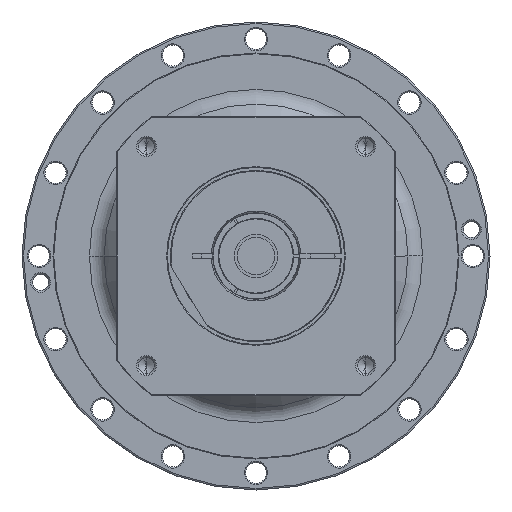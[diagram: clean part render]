
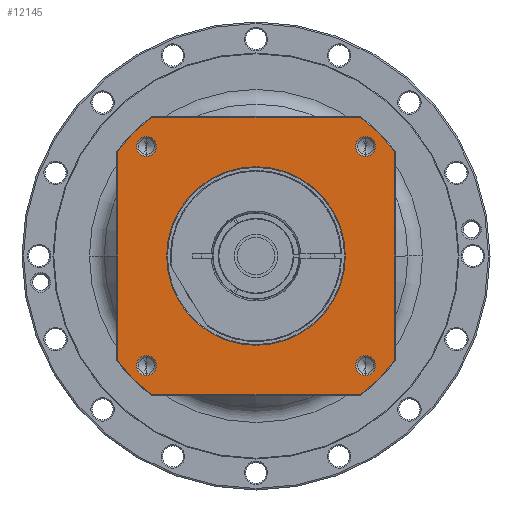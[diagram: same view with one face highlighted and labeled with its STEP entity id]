
A CAD part, left-side view. The second image highlights one B-rep face of the part: STEP entity #12145.
In plain terms, the highlighted planar face has unit normal (-1, 0, 0) as drawn and (0, 0, 1) by its records, which use the part's own axes.
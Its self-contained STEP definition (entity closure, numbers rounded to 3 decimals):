
#10873=DIRECTION('',(1.,0.,0.));
#10874=VECTOR('',#10873,134.666);
#10875=CARTESIAN_POINT('',(-67.333,-89.5,54.));
#10876=LINE('',#10875,#10874);
#10886=CARTESIAN_POINT('',(0.,0.,54.));
#10887=DIRECTION('',(0.,0.,-1.));
#10888=DIRECTION('',(0.,-1.,0.));
#10889=AXIS2_PLACEMENT_3D('',#10886,#10887,#10888);
#10891=CARTESIAN_POINT('',(0.,0.,
54.));
#10892=DIRECTION('',(0.,0.,-1.));
#10893=DIRECTION('',(0.,1.,0.));
#10894=AXIS2_PLACEMENT_3D('',#10891,#10892,#10893);
#10896=CARTESIAN_POINT('',(0.,0.,54.));
#10897=DIRECTION('',(0.,0.,1.));
#10898=DIRECTION('',(-0.799,-0.601,0.));
#10899=AXIS2_PLACEMENT_3D('',#10896,#10897,#10898);
#10911=DIRECTION('',(0.,-1.,0.));
#10912=VECTOR('',#10911,134.666);
#10913=CARTESIAN_POINT('',(-89.5,67.333,54.));
#10914=LINE('',#10913,#10912);
#10924=CARTESIAN_POINT('',(0.,0.,54.));
#10925=DIRECTION('',(0.,0.,1.));
#10926=DIRECTION('',(-0.601,0.799,0.));
#10927=AXIS2_PLACEMENT_3D('',#10924,#10925,#10926);
#10952=DIRECTION('',(-1.,0.,0.));
#10953=VECTOR('',#10952,134.666);
#10954=CARTESIAN_POINT('',(67.333,89.5,54.));
#10955=LINE('',#10954,#10953);
#10960=CARTESIAN_POINT('',(0.,0.,54.));
#10961=DIRECTION('',(0.,0.,1.));
#10962=DIRECTION('',(0.799,0.601,0.));
#10963=AXIS2_PLACEMENT_3D('',#10960,#10961,#10962);
#10975=DIRECTION('',(0.,1.,0.));
#10976=VECTOR('',#10975,134.666);
#10977=CARTESIAN_POINT('',(89.5,-67.333,54.));
#10978=LINE('',#10977,#10976);
#11080=CARTESIAN_POINT('',(0.,0.,54.));
#11081=DIRECTION('',(0.,0.,1.));
#11082=DIRECTION('',(0.601,-0.799,0.));
#11083=AXIS2_PLACEMENT_3D('',#11080,#11081,#11082);
#11362=CARTESIAN_POINT('',(-70.711,70.711,54.));
#11363=DIRECTION('',(0.,0.,1.));
#11364=DIRECTION('',(-1.,0.,0.));
#11365=AXIS2_PLACEMENT_3D('',#11362,#11363,#11364);
#11380=CARTESIAN_POINT('',(-70.711,70.711,54.));
#11381=DIRECTION('',(0.,0.,1.));
#11382=DIRECTION('',(1.,0.,0.));
#11383=AXIS2_PLACEMENT_3D('',#11380,#11381,#11382);
#11416=CARTESIAN_POINT('',(70.711,70.711,54.));
#11417=DIRECTION('',(0.,0.,1.));
#11418=DIRECTION('',(-1.,0.,0.));
#11419=AXIS2_PLACEMENT_3D('',#11416,#11417,#11418);
#11434=CARTESIAN_POINT('',(70.711,70.711,54.));
#11435=DIRECTION('',(0.,0.,1.));
#11436=DIRECTION('',(1.,0.,0.));
#11437=AXIS2_PLACEMENT_3D('',#11434,#11435,#11436);
#11470=CARTESIAN_POINT('',(70.711,-70.711,54.));
#11471=DIRECTION('',(0.,0.,1.));
#11472=DIRECTION('',(-1.,0.,0.));
#11473=AXIS2_PLACEMENT_3D('',#11470,#11471,#11472);
#11488=CARTESIAN_POINT('',(70.711,-70.711,54.));
#11489=DIRECTION('',(0.,0.,1.));
#11490=DIRECTION('',(1.,0.,0.));
#11491=AXIS2_PLACEMENT_3D('',#11488,#11489,#11490);
#11524=CARTESIAN_POINT('',(-70.711,-70.711,54.));
#11525=DIRECTION('',(0.,0.,1.));
#11526=DIRECTION('',(-1.,0.,0.));
#11527=AXIS2_PLACEMENT_3D('',#11524,#11525,#11526);
#11542=CARTESIAN_POINT('',(-70.711,-70.711,54.));
#11543=DIRECTION('',(0.,0.,1.));
#11544=DIRECTION('',(1.,0.,0.));
#11545=AXIS2_PLACEMENT_3D('',#11542,#11543,#11544);
#11586=CARTESIAN_POINT('',(89.5,-67.333,54.));
#11587=CARTESIAN_POINT('',(89.5,67.333,54.));
#11588=VERTEX_POINT('',#11586);
#11589=VERTEX_POINT('',#11587);
#11594=CARTESIAN_POINT('',(67.333,-89.5,54.));
#11595=VERTEX_POINT('',#11594);
#11598=CARTESIAN_POINT('',(-67.333,-89.5,54.));
#11599=VERTEX_POINT('',#11598);
#11602=CARTESIAN_POINT('',(-89.5,-67.333,54.));
#11603=VERTEX_POINT('',#11602);
#11606=CARTESIAN_POINT('',(-89.5,67.333,54.));
#11607=VERTEX_POINT('',#11606);
#11610=CARTESIAN_POINT('',(-67.333,89.5,54.));
#11611=VERTEX_POINT('',#11610);
#11614=CARTESIAN_POINT('',(67.333,89.5,54.));
#11615=VERTEX_POINT('',#11614);
#11664=CARTESIAN_POINT('',(-77.111,70.711,54.));
#11665=CARTESIAN_POINT('',(-64.311,70.711,54.));
#11666=VERTEX_POINT('',#11664);
#11667=VERTEX_POINT('',#11665);
#11698=CARTESIAN_POINT('',(77.111,70.711,54.));
#11699=CARTESIAN_POINT('',(64.311,70.711,54.));
#11700=VERTEX_POINT('',#11698);
#11701=VERTEX_POINT('',#11699);
#11706=CARTESIAN_POINT('',(77.111,-70.711,54.));
#11707=CARTESIAN_POINT('',(64.311,-70.711,54.));
#11708=VERTEX_POINT('',#11706);
#11709=VERTEX_POINT('',#11707);
#11714=CARTESIAN_POINT('',(-64.311,-70.711,54.));
#11715=CARTESIAN_POINT('',(-77.111,-70.711,54.));
#11716=VERTEX_POINT('',#11714);
#11717=VERTEX_POINT('',#11715);
#11722=CARTESIAN_POINT('',(0.,-57.65,54.));
#11723=CARTESIAN_POINT('',(0.,57.65,54.));
#11724=VERTEX_POINT('',#11722);
#11725=VERTEX_POINT('',#11723);
#12093=CARTESIAN_POINT('',(0.,0.,54.));
#12094=DIRECTION('',(0.,0.,1.));
#12095=DIRECTION('',(1.,0.,0.));
#12096=AXIS2_PLACEMENT_3D('',#12093,#12094,#12095);
#12097=PLANE('',#12096);
#12099=ORIENTED_EDGE('',*,*,#12098,.F.);
#12101=ORIENTED_EDGE('',*,*,#12100,.F.);
#12103=ORIENTED_EDGE('',*,*,#12102,.F.);
#12105=ORIENTED_EDGE('',*,*,#12104,.F.);
#12107=ORIENTED_EDGE('',*,*,#12106,.F.);
#12109=ORIENTED_EDGE('',*,*,#12108,.F.);
#12111=ORIENTED_EDGE('',*,*,#12110,.F.);
#12112=ORIENTED_EDGE('',*,*,#12083,.F.);
#12113=EDGE_LOOP('',(#12099,#12101,#12103,#12105,#12107,#12109,#12111,#12112));
#12114=FACE_OUTER_BOUND('',#12113,.F.);
#12116=ORIENTED_EDGE('',*,*,#12115,.F.);
#12118=ORIENTED_EDGE('',*,*,#12117,.F.);
#12119=EDGE_LOOP('',(#12116,#12118));
#12120=FACE_BOUND('',#12119,.F.);
#12122=ORIENTED_EDGE('',*,*,#12121,.T.);
#12124=ORIENTED_EDGE('',*,*,#12123,.T.);
#12125=EDGE_LOOP('',(#12122,#12124));
#12126=FACE_BOUND('',#12125,.F.);
#12128=ORIENTED_EDGE('',*,*,#12127,.T.);
#12130=ORIENTED_EDGE('',*,*,#12129,.T.);
#12131=EDGE_LOOP('',(#12128,#12130));
#12132=FACE_BOUND('',#12131,.F.);
#12134=ORIENTED_EDGE('',*,*,#12133,.T.);
#12136=ORIENTED_EDGE('',*,*,#12135,.T.);
#12137=EDGE_LOOP('',(#12134,#12136));
#12138=FACE_BOUND('',#12137,.F.);
#12140=ORIENTED_EDGE('',*,*,#12139,.T.);
#12142=ORIENTED_EDGE('',*,*,#12141,.T.);
#12143=EDGE_LOOP('',(#12140,#12142));
#12144=FACE_BOUND('',#12143,.F.);
#12145=ADVANCED_FACE('',(#12114,#12120,#12126,#12132,#12138,#12144),#12097,.T.);
#10890=CIRCLE('',#10889,57.65);
#10895=CIRCLE('',#10894,57.65);
#10900=CIRCLE('',#10899,112.);
#10928=CIRCLE('',#10927,112.);
#10964=CIRCLE('',#10963,112.);
#11084=CIRCLE('',#11083,112.);
#11366=CIRCLE('',#11365,6.4);
#11384=CIRCLE('',#11383,6.4);
#11420=CIRCLE('',#11419,6.4);
#11438=CIRCLE('',#11437,6.4);
#11474=CIRCLE('',#11473,6.4);
#11492=CIRCLE('',#11491,6.4);
#11528=CIRCLE('',#11527,6.4);
#11546=CIRCLE('',#11545,6.4);
#12083=EDGE_CURVE('',#11599,#11595,#10876,.T.);
#12098=EDGE_CURVE('',#11603,#11599,#10900,.T.);
#12100=EDGE_CURVE('',#11607,#11603,#10914,.T.);
#12102=EDGE_CURVE('',#11611,#11607,#10928,.T.);
#12104=EDGE_CURVE('',#11615,#11611,#10955,.T.);
#12106=EDGE_CURVE('',#11589,#11615,#10964,.T.);
#12108=EDGE_CURVE('',#11588,#11589,#10978,.T.);
#12110=EDGE_CURVE('',#11595,#11588,#11084,.T.);
#12115=EDGE_CURVE('',#11724,#11725,#10890,.T.);
#12117=EDGE_CURVE('',#11725,#11724,#10895,.T.);
#12121=EDGE_CURVE('',#11666,#11667,#11366,.T.);
#12123=EDGE_CURVE('',#11667,#11666,#11384,.T.);
#12127=EDGE_CURVE('',#11701,#11700,#11420,.T.);
#12129=EDGE_CURVE('',#11700,#11701,#11438,.T.);
#12133=EDGE_CURVE('',#11709,#11708,#11474,.T.);
#12135=EDGE_CURVE('',#11708,#11709,#11492,.T.);
#12139=EDGE_CURVE('',#11717,#11716,#11528,.T.);
#12141=EDGE_CURVE('',#11716,#11717,#11546,.T.);
